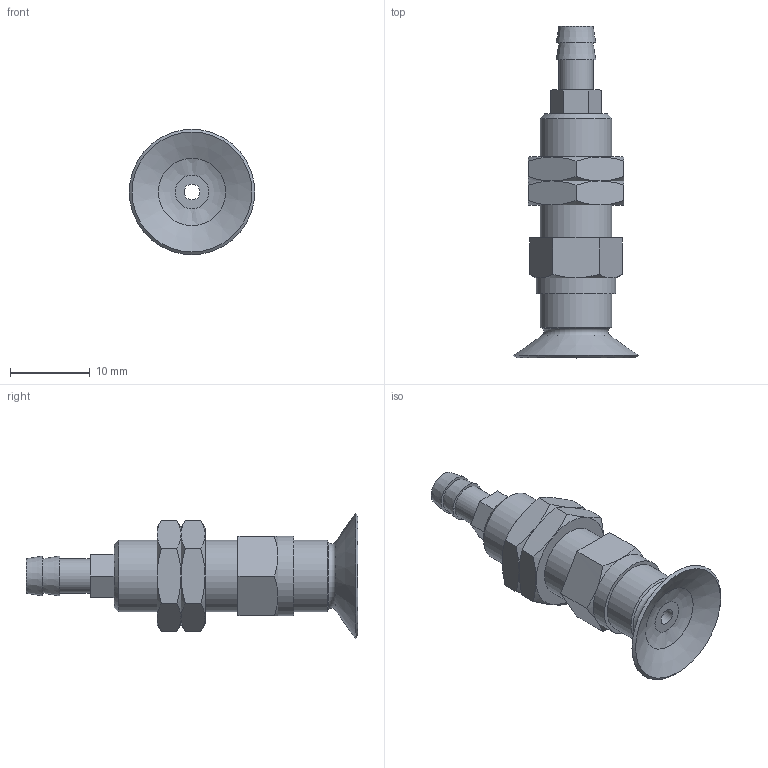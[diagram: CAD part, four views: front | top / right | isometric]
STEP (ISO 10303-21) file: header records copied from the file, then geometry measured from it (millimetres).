
FILE_DESCRIPTION(('STEP AP203'),'1');
FILE_NAME('.stp','2025-04-07T01:30:08',(' '),(' '),'Spatial InterOp 3D',' ',' ');
FILE_SCHEMA(('CONFIG_CONTROL_DESIGN'));
Length unit declared in the file: millimetre
Products named in the file (4): BBPFTK-15A-※; NUT-10A; PFTK-10A; BPFG-15A-※
Assembly tree (4 placements, depth 2):
  BBPFTK-15A-※
    NUT-10A  x2
    PFTK-10A
    BPFG-15A-※
Bounding box: 15.7 x 41.5 x 15.7 mm (x, y, z)
Volume: 2342.2 mm3; surface area: 2826.2 mm2
Topology: 4 solids, 4 shells, 109 faces, 227 edges, 136 vertices
Faces by surface type: cone 43, plane 42, cylinder 14, torus 9, bspline 1
Full cylindrical faces by diameter (mm): 2 x1, 3 x2, 4 x2, 4.134 x1, 4.3 x1, 6 x2, 7.917 x2, 9 x2, 10 x1
Entity records: 2537 total; most frequent: CARTESIAN_POINT 704, DIRECTION 346, ORIENTED_EDGE 274, AXIS2_PLACEMENT_3D 155, EDGE_CURVE 137, EDGE_LOOP 136, FACE_OUTER_BOUND 109, VERTEX_POINT 101
